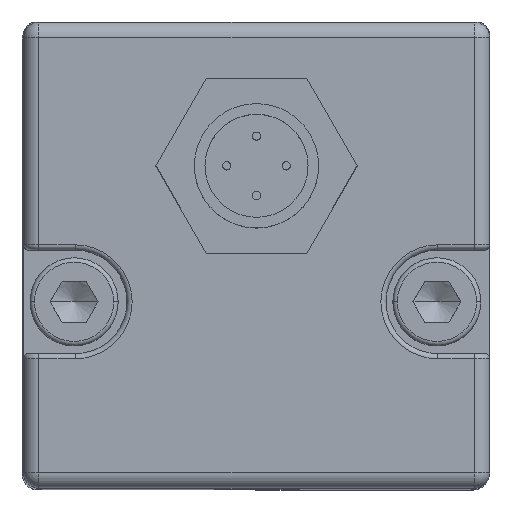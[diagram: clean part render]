
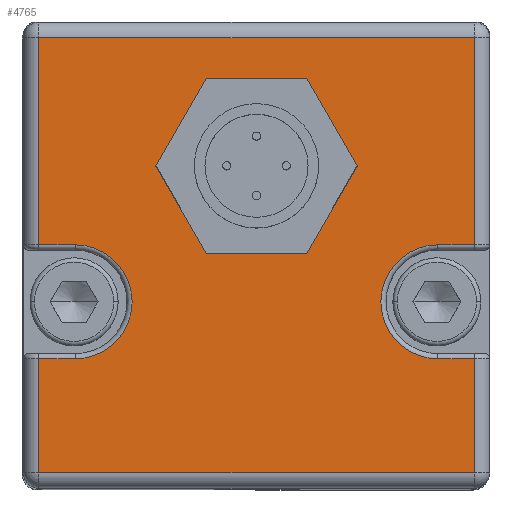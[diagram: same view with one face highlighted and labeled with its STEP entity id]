
A CAD part, top view. The second image highlights one B-rep face of the part: STEP entity #4765.
In plain terms, the highlighted planar face has unit normal (0, 0, 1) as drawn and (0, 1, 0) by its records, which use the part's own axes.
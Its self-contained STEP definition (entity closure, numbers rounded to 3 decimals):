
#171 = ORIENTED_EDGE ( 'NONE', *, *, #2741, .T. ) ;
#175 = ORIENTED_EDGE ( 'NONE', *, *, #2696, .T. ) ;
#177 = ORIENTED_EDGE ( 'NONE', *, *, #2702, .T. ) ;
#196 = ORIENTED_EDGE ( 'NONE', *, *, #5232, .F. ) ;
#197 = ORIENTED_EDGE ( 'NONE', *, *, #2736, .F. ) ;
#204 = ORIENTED_EDGE ( 'NONE', *, *, #2756, .T. ) ;
#334 = EDGE_LOOP ( 'NONE', ( #5756, #5833, #5775, #5814, #5769, #5815, #171, #204, #177, #5777, #5801, #175 ) ) ;
#340 = EDGE_LOOP ( 'NONE', ( #197, #196 ) ) ;
#422 = CARTESIAN_POINT ( 'NONE',  ( 21., 7., 21. ) ) ;
#512 = CARTESIAN_POINT ( 'NONE',  ( 17.5, 7., 10. ) ) ;
#514 = CARTESIAN_POINT ( 'NONE',  ( 0., 7., -15.1 ) ) ;
#519 = CARTESIAN_POINT ( 'NONE',  ( 21., 7., -21. ) ) ;
#550 = CARTESIAN_POINT ( 'NONE',  ( -17.5, 7., -1. ) ) ;
#794 = LINE ( 'NONE', #4665, #796 ) ;
#796 = VECTOR ( 'NONE', #4672, 1000. ) ;
#797 = LINE ( 'NONE', #4673, #798 ) ;
#798 = VECTOR ( 'NONE', #4674, 1000. ) ;
#805 = CIRCLE ( 'NONE', #3630, 5.5 ) ;
#816 = LINE ( 'NONE', #4702, #817 ) ;
#817 = VECTOR ( 'NONE', #4703, 1000. ) ;
#828 = LINE ( 'NONE', #1803, #829 ) ;
#829 = VECTOR ( 'NONE', #1804, 1000. ) ;
#841 = VECTOR ( 'NONE', #1831, 1000. ) ;
#843 = CIRCLE ( 'NONE', #3635, 6.5 ) ;
#848 = LINE ( 'NONE', #1818, #841 ) ;
#855 = CIRCLE ( 'NONE', #3640, 5.5 ) ;
#860 = LINE ( 'NONE', #1851, #861 ) ;
#861 = VECTOR ( 'NONE', #1852, 1000. ) ;
#862 = LINE ( 'NONE', #1853, #863 ) ;
#863 = VECTOR ( 'NONE', #1854, 1000. ) ;
#872 = VECTOR ( 'NONE', #1889, 1000. ) ;
#888 = LINE ( 'NONE', #1872, #872 ) ;
#1053 = VERTEX_POINT ( 'NONE', #7261 ) ;
#1059 = VERTEX_POINT ( 'NONE', #7241 ) ;
#1063 = VERTEX_POINT ( 'NONE', #7015 ) ;
#1145 = VERTEX_POINT ( 'NONE', #7190 ) ;
#1162 = VERTEX_POINT ( 'NONE', #7047 ) ;
#1180 = VERTEX_POINT ( 'NONE', #7049 ) ;
#1199 = VERTEX_POINT ( 'NONE', #7103 ) ;
#1203 = VERTEX_POINT ( 'NONE', #7020 ) ;
#1209 = VERTEX_POINT ( 'NONE', #7218 ) ;
#1241 = VERTEX_POINT ( 'NONE', #422 ) ;
#1295 = VERTEX_POINT ( 'NONE', #519 ) ;
#1299 = VERTEX_POINT ( 'NONE', #514 ) ;
#1301 = VERTEX_POINT ( 'NONE', #512 ) ;
#1312 = VERTEX_POINT ( 'NONE', #550 ) ;
#1803 = CARTESIAN_POINT ( 'NONE',  ( 21., 7., -22.5 ) ) ;
#1804 = DIRECTION ( 'NONE',  ( 0., 0., -1. ) ) ;
#1816 = CARTESIAN_POINT ( 'NONE',  ( 0., 7., -8.6 ) ) ;
#1818 = CARTESIAN_POINT ( 'NONE',  ( -21., 7., 22.5 ) ) ;
#1819 = DIRECTION ( 'NONE',  ( 0., 1., 0. ) ) ;
#1820 = DIRECTION ( 'NONE',  ( 0., 0., 1. ) ) ;
#1831 = DIRECTION ( 'NONE',  ( 0., 0., 1. ) ) ;
#1832 = CARTESIAN_POINT ( 'NONE',  ( 17.5, 7., 4.5 ) ) ;
#1839 = DIRECTION ( 'NONE',  ( 0., -1., 0. ) ) ;
#1840 = DIRECTION ( 'NONE',  ( 0., 0., 1. ) ) ;
#1851 = CARTESIAN_POINT ( 'NONE',  ( -21., 7., 22.5 ) ) ;
#1852 = DIRECTION ( 'NONE',  ( 0., 0., 1. ) ) ;
#1853 = CARTESIAN_POINT ( 'NONE',  ( 22.5, 7., -1. ) ) ;
#1854 = DIRECTION ( 'NONE',  ( 1., 0., 0. ) ) ;
#1872 = CARTESIAN_POINT ( 'NONE',  ( 22.5, 7., 10. ) ) ;
#1889 = DIRECTION ( 'NONE',  ( -1., 0., 0. ) ) ;
#2689 = EDGE_CURVE ( 'NONE', #1295, #1209, #4048, .T. ) ;
#2691 = EDGE_CURVE ( 'NONE', #1199, #1180, #4046, .T. ) ;
#2696 = EDGE_CURVE ( 'NONE', #1203, #1241, #794, .T. ) ;
#2697 = EDGE_CURVE ( 'NONE', #1063, #1162, #797, .T. ) ;
#2702 = EDGE_CURVE ( 'NONE', #1312, #1063, #805, .T. ) ;
#2715 = EDGE_CURVE ( 'NONE', #1241, #1053, #816, .T. ) ;
#2723 = EDGE_CURVE ( 'NONE', #1180, #1295, #828, .T. ) ;
#2736 = EDGE_CURVE ( 'NONE', #1059, #1299, #843, .T. ) ;
#2741 = EDGE_CURVE ( 'NONE', #1209, #1145, #848, .T. ) ;
#2745 = EDGE_CURVE ( 'NONE', #1301, #1199, #855, .T. ) ;
#2755 = EDGE_CURVE ( 'NONE', #1162, #1203, #860, .T. ) ;
#2756 = EDGE_CURVE ( 'NONE', #1145, #1312, #862, .T. ) ;
#2778 = EDGE_CURVE ( 'NONE', #1053, #1301, #888, .T. ) ;
#2949 = FACE_BOUND ( 'NONE', #340, .T. ) ;
#2950 = FACE_OUTER_BOUND ( 'NONE', #334, .T. ) ;
#3542 = AXIS2_PLACEMENT_3D ( 'NONE', #7950, #7965, #7966 ) ;
#3560 = AXIS2_PLACEMENT_3D ( 'NONE', #8041, #8049, #8050 ) ;
#3630 = AXIS2_PLACEMENT_3D ( 'NONE', #4681, #4683, #4684 ) ;
#3635 = AXIS2_PLACEMENT_3D ( 'NONE', #1816, #1819, #1820 ) ;
#3640 = AXIS2_PLACEMENT_3D ( 'NONE', #1832, #1839, #1840 ) ;
#4042 = VECTOR ( 'NONE', #4655, 1000. ) ;
#4046 = LINE ( 'NONE', #4656, #4052 ) ;
#4048 = LINE ( 'NONE', #4649, #4042 ) ;
#4052 = VECTOR ( 'NONE', #4660, 1000. ) ;
#4649 = CARTESIAN_POINT ( 'NONE',  ( 22.5, 7., -21. ) ) ;
#4655 = DIRECTION ( 'NONE',  ( -1., 0., 0. ) ) ;
#4656 = CARTESIAN_POINT ( 'NONE',  ( 22.5, 7., -1. ) ) ;
#4660 = DIRECTION ( 'NONE',  ( 1., 0., 0. ) ) ;
#4665 = CARTESIAN_POINT ( 'NONE',  ( 22.5, 7., 21. ) ) ;
#4672 = DIRECTION ( 'NONE',  ( 1., 0., 0. ) ) ;
#4673 = CARTESIAN_POINT ( 'NONE',  ( 22.5, 7., 10. ) ) ;
#4674 = DIRECTION ( 'NONE',  ( -1., 0., 0. ) ) ;
#4681 = CARTESIAN_POINT ( 'NONE',  ( -17.5, 7., 4.5 ) ) ;
#4683 = DIRECTION ( 'NONE',  ( 0., -1., 0. ) ) ;
#4684 = DIRECTION ( 'NONE',  ( 0., 0., 1. ) ) ;
#4702 = CARTESIAN_POINT ( 'NONE',  ( 21., 7., 9.5 ) ) ;
#4703 = DIRECTION ( 'NONE',  ( 0., 0., -1. ) ) ;
#4765 = ADVANCED_FACE ( 'NONE', ( #2949, #2950 ), #7964, .T. ) ;
#4803 = CIRCLE ( 'NONE', #3560, 6.5 ) ;
#5232 = EDGE_CURVE ( 'NONE', #1299, #1059, #4803, .T. ) ;
#5756 = ORIENTED_EDGE ( 'NONE', *, *, #2715, .T. ) ;
#5769 = ORIENTED_EDGE ( 'NONE', *, *, #2723, .T. ) ;
#5775 = ORIENTED_EDGE ( 'NONE', *, *, #2745, .T. ) ;
#5777 = ORIENTED_EDGE ( 'NONE', *, *, #2697, .T. ) ;
#5801 = ORIENTED_EDGE ( 'NONE', *, *, #2755, .T. ) ;
#5814 = ORIENTED_EDGE ( 'NONE', *, *, #2691, .T. ) ;
#5815 = ORIENTED_EDGE ( 'NONE', *, *, #2689, .T. ) ;
#5833 = ORIENTED_EDGE ( 'NONE', *, *, #2778, .T. ) ;
#7015 = CARTESIAN_POINT ( 'NONE',  ( -17.5, 7., 10. ) ) ;
#7020 = CARTESIAN_POINT ( 'NONE',  ( -21., 7., 21. ) ) ;
#7047 = CARTESIAN_POINT ( 'NONE',  ( -21., 7., 10. ) ) ;
#7049 = CARTESIAN_POINT ( 'NONE',  ( 21., 7., -1. ) ) ;
#7103 = CARTESIAN_POINT ( 'NONE',  ( 17.5, 7., -1. ) ) ;
#7190 = CARTESIAN_POINT ( 'NONE',  ( -21., 7., -1. ) ) ;
#7218 = CARTESIAN_POINT ( 'NONE',  ( -21., 7., -21. ) ) ;
#7241 = CARTESIAN_POINT ( 'NONE',  ( 0., 7., -2.1 ) ) ;
#7261 = CARTESIAN_POINT ( 'NONE',  ( 21., 7., 10. ) ) ;
#7950 = CARTESIAN_POINT ( 'NONE',  ( 22.5, 7., 22.5 ) ) ;
#7964 = PLANE ( 'NONE',  #3542 ) ;
#7965 = DIRECTION ( 'NONE',  ( 0., 1., 0. ) ) ;
#7966 = DIRECTION ( 'NONE',  ( 0., 0., 1. ) ) ;
#8041 = CARTESIAN_POINT ( 'NONE',  ( 0., 7., -8.6 ) ) ;
#8049 = DIRECTION ( 'NONE',  ( 0., 1., 0. ) ) ;
#8050 = DIRECTION ( 'NONE',  ( 0., 0., 1. ) ) ;
